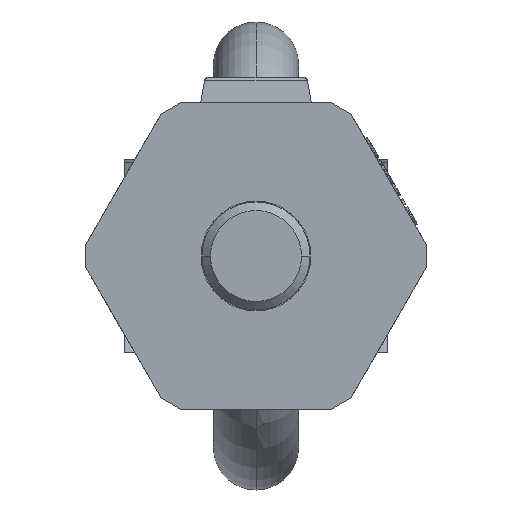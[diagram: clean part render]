
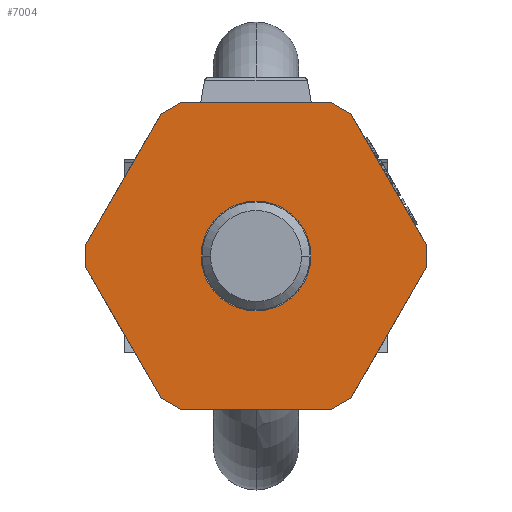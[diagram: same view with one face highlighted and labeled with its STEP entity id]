
A CAD part, front view. The second image highlights one B-rep face of the part: STEP entity #7004.
In plain terms, the highlighted planar face has unit normal (0, -1, 0) as drawn and (0, 0, -1) by its records, which use the part's own axes.
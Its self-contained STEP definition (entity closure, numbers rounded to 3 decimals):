
#1=DIRECTION('',(0.,-1.,0.));
#2=VECTOR('',#1,2.718);
#3=CARTESIAN_POINT('',(-20.,1.359,0.));
#4=LINE('',#3,#2);
#5=DIRECTION('',(0.5,-0.866,0.));
#6=VECTOR('',#5,17.646);
#7=CARTESIAN_POINT('',(-20.,-1.359,0.));
#8=LINE('',#7,#6);
#9=DIRECTION('',(0.866,-0.5,0.));
#10=VECTOR('',#9,2.718);
#11=CARTESIAN_POINT('',(-11.177,-16.641,0.));
#12=LINE('',#11,#10);
#13=DIRECTION('',(1.,0.,0.));
#14=VECTOR('',#13,17.646);
#15=CARTESIAN_POINT('',(-8.823,-18.,0.));
#16=LINE('',#15,#14);
#17=DIRECTION('',(0.866,0.5,0.));
#18=VECTOR('',#17,2.718);
#19=CARTESIAN_POINT('',(8.823,-18.,0.));
#20=LINE('',#19,#18);
#21=DIRECTION('',(0.5,0.866,0.));
#22=VECTOR('',#21,17.646);
#23=CARTESIAN_POINT('',(11.177,-16.641,0.));
#24=LINE('',#23,#22);
#25=DIRECTION('',(0.,1.,0.));
#26=VECTOR('',#25,2.718);
#27=CARTESIAN_POINT('',(20.,-1.359,0.));
#28=LINE('',#27,#26);
#29=DIRECTION('',(-0.5,0.866,0.));
#30=VECTOR('',#29,17.646);
#31=CARTESIAN_POINT('',(20.,1.359,0.));
#32=LINE('',#31,#30);
#33=DIRECTION('',(-0.866,0.5,0.));
#34=VECTOR('',#33,2.718);
#35=CARTESIAN_POINT('',(11.177,16.641,0.));
#36=LINE('',#35,#34);
#37=DIRECTION('',(-1.,0.,0.));
#38=VECTOR('',#37,17.646);
#39=CARTESIAN_POINT('',(8.823,18.,0.));
#40=LINE('',#39,#38);
#41=DIRECTION('',(-0.866,-0.5,0.));
#42=VECTOR('',#41,2.718);
#43=CARTESIAN_POINT('',(-8.823,18.,0.));
#44=LINE('',#43,#42);
#45=DIRECTION('',(-0.5,-0.866,0.));
#46=VECTOR('',#45,17.646);
#47=CARTESIAN_POINT('',(-11.177,16.641,0.));
#48=LINE('',#47,#46);
#49=CARTESIAN_POINT('',(0.,0.,0.));
#50=DIRECTION('',(0.,0.,1.));
#51=DIRECTION('',(0.,1.,0.));
#52=AXIS2_PLACEMENT_3D('',#49,#50,#51);
#54=CARTESIAN_POINT('',(0.,0.,0.));
#55=DIRECTION('',(0.,0.,1.));
#56=DIRECTION('',(0.,-1.,0.));
#57=AXIS2_PLACEMENT_3D('',#54,#55,#56);
#5296=CARTESIAN_POINT('',(-20.,1.359,0.));
#5297=CARTESIAN_POINT('',(-20.,-1.359,0.));
#5298=VERTEX_POINT('',#5296);
#5299=VERTEX_POINT('',#5297);
#5300=CARTESIAN_POINT('',(20.,-1.359,0.));
#5301=CARTESIAN_POINT('',(20.,1.359,0.));
#5302=VERTEX_POINT('',#5300);
#5303=VERTEX_POINT('',#5301);
#5304=CARTESIAN_POINT('',(11.177,16.641,0.));
#5305=CARTESIAN_POINT('',(8.823,18.,0.));
#5306=VERTEX_POINT('',#5304);
#5307=VERTEX_POINT('',#5305);
#5308=CARTESIAN_POINT('',(-11.177,-16.641,0.));
#5309=CARTESIAN_POINT('',(-8.823,-18.,0.));
#5310=VERTEX_POINT('',#5308);
#5311=VERTEX_POINT('',#5309);
#5312=CARTESIAN_POINT('',(8.823,-18.,0.));
#5313=CARTESIAN_POINT('',(11.177,-16.641,0.));
#5314=VERTEX_POINT('',#5312);
#5315=VERTEX_POINT('',#5313);
#5316=CARTESIAN_POINT('',(-8.823,18.,0.));
#5317=CARTESIAN_POINT('',(-11.177,16.641,0.));
#5318=VERTEX_POINT('',#5316);
#5319=VERTEX_POINT('',#5317);
#5344=CARTESIAN_POINT('',(0.,6.45,0.));
#5345=CARTESIAN_POINT('',(0.,-6.45,0.));
#5346=VERTEX_POINT('',#5344);
#5347=VERTEX_POINT('',#5345);
#6967=CARTESIAN_POINT('',(0.,0.,0.));
#6968=DIRECTION('',(0.,0.,1.));
#6969=DIRECTION('',(1.,0.,0.));
#6970=AXIS2_PLACEMENT_3D('',#6967,#6968,#6969);
#6971=PLANE('',#6970);
#6973=ORIENTED_EDGE('',*,*,#6972,.T.);
#6975=ORIENTED_EDGE('',*,*,#6974,.T.);
#6977=ORIENTED_EDGE('',*,*,#6976,.T.);
#6979=ORIENTED_EDGE('',*,*,#6978,.T.);
#6981=ORIENTED_EDGE('',*,*,#6980,.T.);
#6983=ORIENTED_EDGE('',*,*,#6982,.T.);
#6985=ORIENTED_EDGE('',*,*,#6984,.T.);
#6987=ORIENTED_EDGE('',*,*,#6986,.T.);
#6989=ORIENTED_EDGE('',*,*,#6988,.T.);
#6991=ORIENTED_EDGE('',*,*,#6990,.T.);
#6993=ORIENTED_EDGE('',*,*,#6992,.T.);
#6995=ORIENTED_EDGE('',*,*,#6994,.T.);
#6996=EDGE_LOOP('',(#6973,#6975,#6977,#6979,#6981,#6983,#6985,#6987,#6989,#6991,
#6993,#6995));
#6997=FACE_OUTER_BOUND('',#6996,.F.);
#6999=ORIENTED_EDGE('',*,*,#6998,.F.);
#7001=ORIENTED_EDGE('',*,*,#7000,.F.);
#7002=EDGE_LOOP('',(#6999,#7001));
#7003=FACE_BOUND('',#7002,.F.);
#7004=ADVANCED_FACE('',(#6997,#7003),#6971,.F.);
#53=CIRCLE('',#52,6.45);
#58=CIRCLE('',#57,6.45);
#6972=EDGE_CURVE('',#5298,#5299,#4,.T.);
#6974=EDGE_CURVE('',#5299,#5310,#8,.T.);
#6976=EDGE_CURVE('',#5310,#5311,#12,.T.);
#6978=EDGE_CURVE('',#5311,#5314,#16,.T.);
#6980=EDGE_CURVE('',#5314,#5315,#20,.T.);
#6982=EDGE_CURVE('',#5315,#5302,#24,.T.);
#6984=EDGE_CURVE('',#5302,#5303,#28,.T.);
#6986=EDGE_CURVE('',#5303,#5306,#32,.T.);
#6988=EDGE_CURVE('',#5306,#5307,#36,.T.);
#6990=EDGE_CURVE('',#5307,#5318,#40,.T.);
#6992=EDGE_CURVE('',#5318,#5319,#44,.T.);
#6994=EDGE_CURVE('',#5319,#5298,#48,.T.);
#6998=EDGE_CURVE('',#5346,#5347,#53,.T.);
#7000=EDGE_CURVE('',#5347,#5346,#58,.T.);
